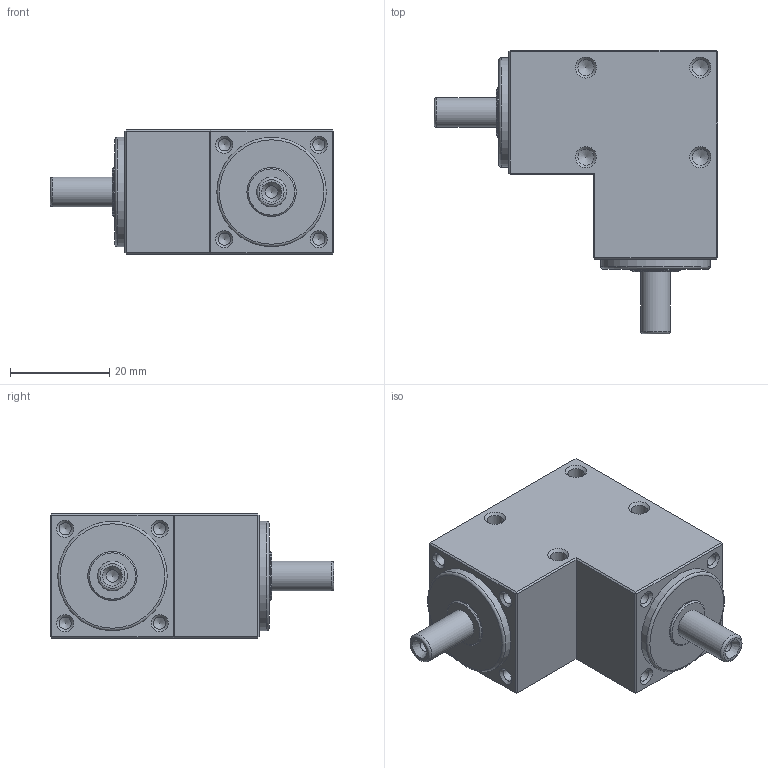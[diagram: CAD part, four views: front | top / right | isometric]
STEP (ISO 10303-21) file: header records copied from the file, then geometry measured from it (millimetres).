
FILE_DESCRIPTION((''),'2;1');
FILE_NAME('D:\유성\SBT 베벨기어박스\최종도면모음\3D\SBT025\SBT025LS001S.stp','2014-05-16T12:05:37',('nagyu'),(''),'Autodesk Inventor 2013','Autodesk Inventor 2013','');
FILE_SCHEMA(('AUTOMOTIVE_DESIGN { 1 0 10303 214 1 1 1 1 }'));
Length unit declared in the file: millimetre
Products named in the file (1): SBT025LS001S
Bounding box: 57 x 57 x 25 mm (x, y, z)
Volume: 38364.2 mm3; surface area: 8789.5 mm2
Topology: 1 solids, 1 shells, 107 faces, 223 edges, 124 vertices
Faces by surface type: plane 41, cone 38, cylinder 24, torus 4
Full cylindrical faces by diameter (mm): 2.459 x10, 3.242 x8, 6 x2, 9.9 x2, 22 x2
Entity records: 2291 total; most frequent: DIRECTION 427, CARTESIAN_POINT 353, ORIENTED_EDGE 278, AXIS2_PLACEMENT_3D 180, EDGE_LOOP 179, EDGE_CURVE 139, FACE_OUTER_BOUND 107, ADVANCED_FACE 107
